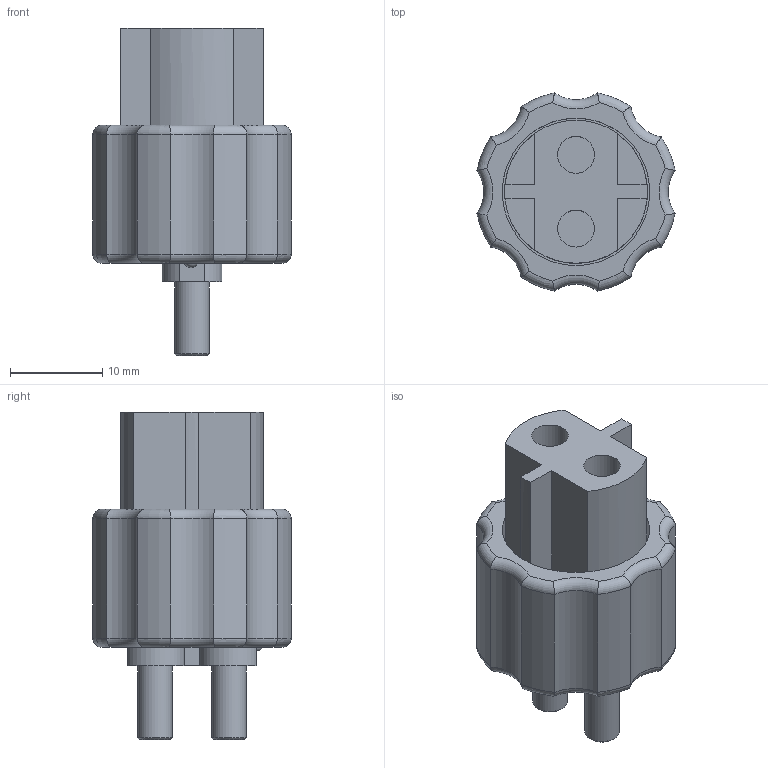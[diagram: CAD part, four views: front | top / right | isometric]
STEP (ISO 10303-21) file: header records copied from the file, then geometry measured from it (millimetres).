
FILE_DESCRIPTION(/* description */ ('LWL-Anschluss-Mutter'),/* implementation_level */ '2;1');
FILE_NAME(/* name */ 'T:\E-Mail-Zeichnungen\STEP\HOMEPAGE\LWL-Anschluss-2fach_2-fach mit Mutter.stp',/* time_stamp */ '2015-04-21T12:01:49+02:00',/* author */ ('simone.schrank'),/* organization */ (''),/* preprocessor_version */ 'ST-DEVELOPER v15.6',/* originating_system */ 'Autodesk Inventor 2015',/* authorisation */ '');
FILE_SCHEMA (('AUTOMOTIVE_DESIGN { 1 0 10303 214 3 1 1 }'));
Length unit declared in the file: millimetre
Products named in the file (3): LWL-Anschluss-Mutter; LWL-Anschluss-2fach; LWL-Anschluss-2fach_2-fach mit Mutter
Assembly tree (2 placements, depth 2):
  LWL-Anschluss-2fach_2-fach mit Mutter
    LWL-Anschluss-Mutter
    LWL-Anschluss-2fach
Bounding box: 21.5 x 21.5 x 35.5 mm (x, y, z)
Volume: 5722.7 mm3; surface area: 4318.9 mm2
Topology: 2 solids, 2 shells, 109 faces, 258 edges, 160 vertices
Faces by surface type: plane 44, torus 32, cylinder 30, cone 2, sphere 1
Full cylindrical faces by diameter (mm): 2 x2, 3.75 x2, 4 x2, 15.5 x1, 16 x1, 16.5 x1, 16.917 x1
Entity records: 3488 total; most frequent: CARTESIAN_POINT 928, DIRECTION 546, ORIENTED_EDGE 482, EDGE_CURVE 241, AXIS2_PLACEMENT_3D 223, VERTEX_POINT 157, EDGE_LOOP 132, FACE_OUTER_BOUND 109
